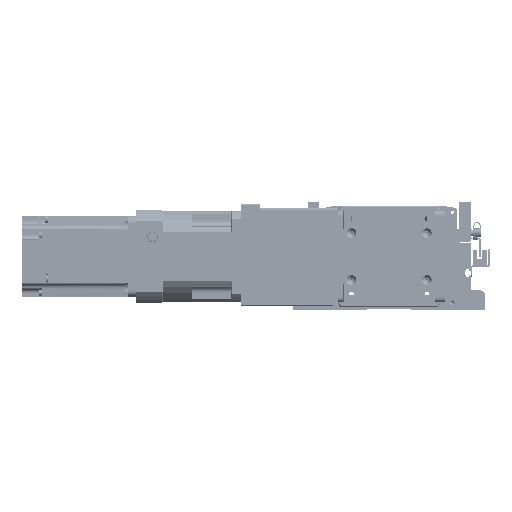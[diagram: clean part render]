
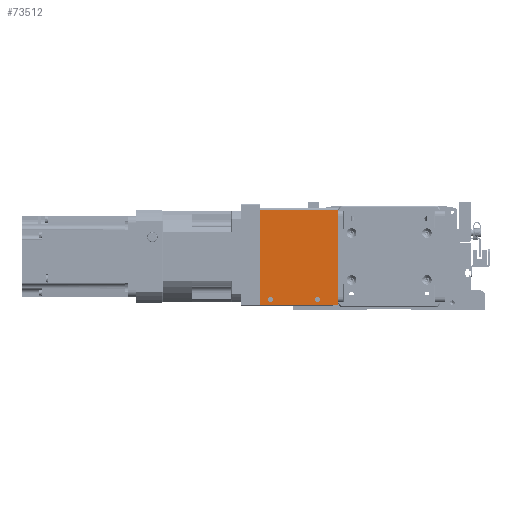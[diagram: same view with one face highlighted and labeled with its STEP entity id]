
A CAD part, front view. The second image highlights one B-rep face of the part: STEP entity #73512.
In plain terms, the highlighted planar face has unit normal (0, -1, 0) as drawn and (1, 0, 0) by its records, which use the part's own axes.
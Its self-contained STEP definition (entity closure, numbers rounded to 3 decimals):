
#2421=FACE_BOUND('',#13034,.T.);
#2422=FACE_BOUND('',#13035,.T.);
#3715=PLANE('',#80231);
#8557=FACE_OUTER_BOUND('',#13033,.T.);
#13033=EDGE_LOOP('',(#59736,#59737,#59738,#59739,#59740,#59741));
#13034=EDGE_LOOP('',(#59742));
#13035=EDGE_LOOP('',(#59743));
#18304=LINE('',#118694,#24985);
#18310=LINE('',#118711,#24991);
#18326=LINE('',#118757,#25007);
#18327=LINE('',#118759,#25008);
#24985=VECTOR('',#94516,10.);
#24991=VECTOR('',#94532,10.);
#25007=VECTOR('',#94584,10.);
#25008=VECTOR('',#94587,10.);
#30619=CIRCLE('',#80195,2.5);
#30621=CIRCLE('',#80198,2.5);
#30623=CIRCLE('',#80201,1.);
#30630=CIRCLE('',#80211,1.);
#35441=VERTEX_POINT('',#118653);
#35443=VERTEX_POINT('',#118659);
#35445=VERTEX_POINT('',#118665);
#35446=VERTEX_POINT('',#118666);
#35458=VERTEX_POINT('',#118692);
#35462=VERTEX_POINT('',#118704);
#35463=VERTEX_POINT('',#118705);
#35464=VERTEX_POINT('',#118710);
#44121=EDGE_CURVE('',#35441,#35441,#30619,.T.);
#44124=EDGE_CURVE('',#35443,#35443,#30621,.T.);
#44127=EDGE_CURVE('',#35445,#35446,#30623,.T.);
#44141=EDGE_CURVE('',#35458,#35445,#18304,.T.);
#44146=EDGE_CURVE('',#35462,#35463,#30630,.T.);
#44149=EDGE_CURVE('',#35463,#35464,#18310,.T.);
#44173=EDGE_CURVE('',#35464,#35458,#18326,.T.);
#44174=EDGE_CURVE('',#35462,#35446,#18327,.T.);
#59736=ORIENTED_EDGE('',*,*,#44127,.F.);
#59737=ORIENTED_EDGE('',*,*,#44141,.F.);
#59738=ORIENTED_EDGE('',*,*,#44173,.F.);
#59739=ORIENTED_EDGE('',*,*,#44149,.F.);
#59740=ORIENTED_EDGE('',*,*,#44146,.F.);
#59741=ORIENTED_EDGE('',*,*,#44174,.T.);
#59742=ORIENTED_EDGE('',*,*,#44121,.T.);
#59743=ORIENTED_EDGE('',*,*,#44124,.T.);
#73512=ADVANCED_FACE('',(#8557,#2421,#2422),#3715,.T.);
#80195=AXIS2_PLACEMENT_3D('',#118654,#94480,#94481);
#80198=AXIS2_PLACEMENT_3D('',#118660,#94487,#94488);
#80201=AXIS2_PLACEMENT_3D('',#118667,#94494,#94495);
#80211=AXIS2_PLACEMENT_3D('',#118706,#94526,#94527);
#80231=AXIS2_PLACEMENT_3D('',#118758,#94585,#94586);
#94480=DIRECTION('center_axis',(-1.,0.,0.));
#94481=DIRECTION('ref_axis',(0.,0.,-1.));
#94487=DIRECTION('center_axis',(-1.,0.,0.));
#94488=DIRECTION('ref_axis',(0.,0.,-1.));
#94494=DIRECTION('center_axis',(-1.,0.,0.));
#94495=DIRECTION('ref_axis',(0.,-0.707,-0.707));
#94516=DIRECTION('',(0.,-1.,0.));
#94526=DIRECTION('center_axis',(-1.,0.,0.));
#94527=DIRECTION('ref_axis',(0.,-0.707,0.707));
#94532=DIRECTION('',(0.,1.,0.));
#94584=DIRECTION('',(0.,0.,-1.));
#94585=DIRECTION('center_axis',(1.,0.,0.));
#94586=DIRECTION('ref_axis',(0.,1.,0.));
#94587=DIRECTION('',(0.,0.,-1.));
#118653=CARTESIAN_POINT('',(49.,-41.75,30.5));
#118654=CARTESIAN_POINT('Origin',(49.,-41.75,28.));
#118659=CARTESIAN_POINT('',(49.,-41.75,-15.5));
#118660=CARTESIAN_POINT('Origin',(49.,-41.75,-18.));
#118665=CARTESIAN_POINT('',(49.,-46.75,-38.));
#118666=CARTESIAN_POINT('',(49.,-47.75,-37.));
#118667=CARTESIAN_POINT('Origin',(49.,-46.75,-37.));
#118692=CARTESIAN_POINT('',(49.,45.75,-38.));
#118694=CARTESIAN_POINT('',(49.,47.75,-38.));
#118704=CARTESIAN_POINT('',(49.,-47.75,37.));
#118705=CARTESIAN_POINT('',(49.,-46.75,38.));
#118706=CARTESIAN_POINT('Origin',(49.,-46.75,37.));
#118710=CARTESIAN_POINT('',(49.,45.75,38.));
#118711=CARTESIAN_POINT('',(49.,47.75,38.));
#118757=CARTESIAN_POINT('',(49.,45.75,0.));
#118758=CARTESIAN_POINT('Origin',(49.,-47.75,0.));
#118759=CARTESIAN_POINT('',(49.,-47.75,0.));
